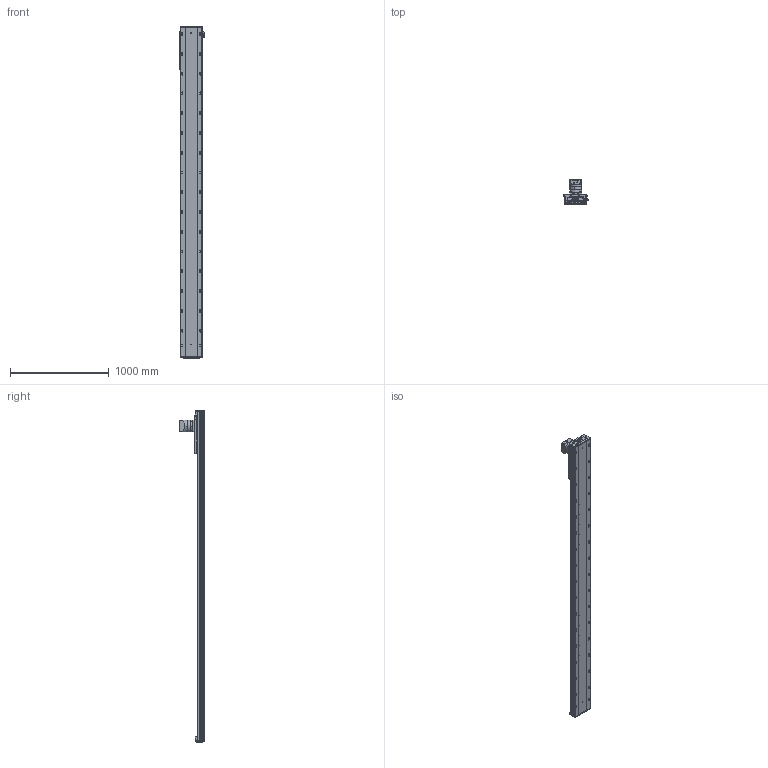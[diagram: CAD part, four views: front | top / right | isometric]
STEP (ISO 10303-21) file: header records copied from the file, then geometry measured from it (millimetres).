
FILE_DESCRIPTION (( 'STEP AP203' ), '1' );
FILE_NAME ('RY220-C-300-UK.SLDASM_2850.step', '2022-08-01T06:00:31', ( '' ), ( '' ), 'SwSTEP 2.0', 'SolidWorks 2016', '' );
FILE_SCHEMA (( 'CONFIG_CONTROL_DESIGN' ));
Length unit declared in the file: millimetre
Products named in the file (10): RY220喘沭賑輸; 覜茼ん674; RY140直线电机感应器674光电安装座; RY220喘沭綴裔啣; RY220菁釱MK-300_2850; PF115L1-S2-22-58-110-145-M8; RY220-C-300-UK.SLDASM_2850; RY220喘沭俋离覜茼え; RY220-齿条模组电机安装板; 滅袉蝶輸ㄗG412隅秶ㄘ
Assembly tree (12 placements, depth 2):
  RY220-C-300-UK.SLDASM_2850
    RY220菁釱MK-300_2850
    RY220喘沭賑輸
    RY220-齿条模组电机安装板
    PF115L1-S2-22-58-110-145-M8
    RY220喘沭綴裔啣  x2
    滅袉蝶輸ㄗG412隅秶ㄘ  x2
    RY140直线电机感应器674光电安装座
    覜茼ん674  x2
    RY220喘沭俋离覜茼え
Bounding box: 247 x 244.5 x 3359 mm (x, y, z)
Volume: 22350836.5 mm3; surface area: 4608171.5 mm2
Topology: 18 solids, 26 shells, 2404 faces, 6481 edges, 4037 vertices
Faces by surface type: cylinder 1177, plane 751, cone 314, bspline 162
Entity records: 76485 total; most frequent: CARTESIAN_POINT 20705, DIRECTION 11559, ORIENTED_EDGE 11234, EDGE_CURVE 5617, AXIS2_PLACEMENT_3D 4439, VERTEX_POINT 3663, EDGE_LOOP 2828, VECTOR 2681
